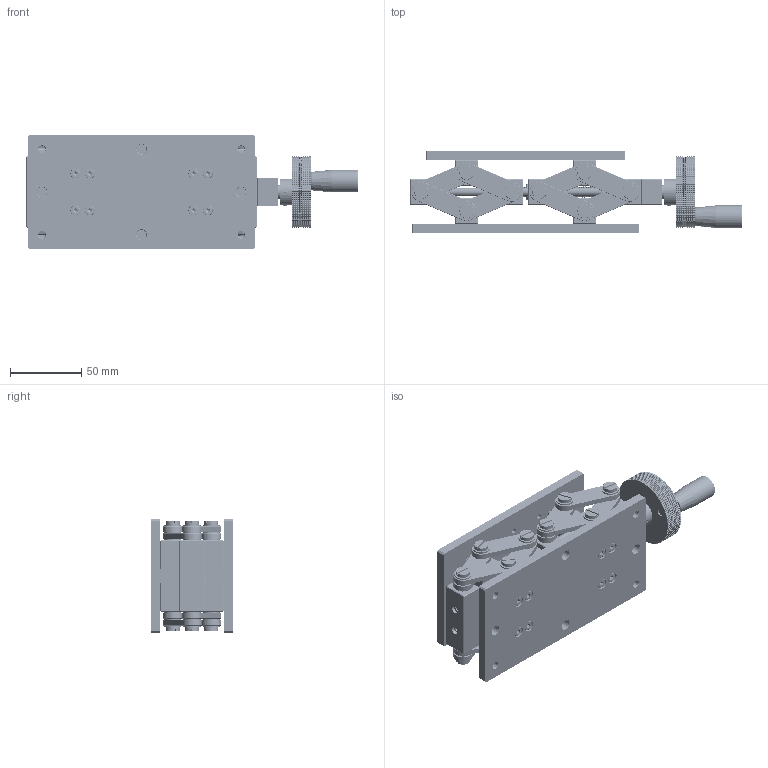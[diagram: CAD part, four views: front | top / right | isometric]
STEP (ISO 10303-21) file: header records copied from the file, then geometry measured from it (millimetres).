
FILE_DESCRIPTION (( 'STEP AP203' ), '1' );
FILE_NAME ('BLJZ0814.STEP', '2024-07-15T12:42:15', ( 'Windows User' ), ( 'P R C' ), 'SwSTEP 2.0', 'SolidWorks 2024', '' );
FILE_SCHEMA (( 'CONFIG_CONTROL_DESIGN' ));
Products named in the file (1): BLJZ0814
Bounding box: 233.5 x 58 x 80 mm (x, y, z)
Volume: 352459.6 mm3; surface area: 183403.9 mm2
Topology: 148 solids, 148 shells, 6579 faces, 17707 edges, 11549 vertices
Faces by surface type: cylinder 2501, cone 2467, plane 1504, bspline 80, torus 27
Full cylindrical faces by diameter (mm): 1.5 x2, 2.5 x29, 3 x6, 3.3 x45, 3.4 x6, 3.5 x23, 4 x20, 4.5 x16, 5 x8, 5.3 x1, 5.5 x8, 6 x87, 6.02 x14, 6.5 x59, 7 x21, 8 x16, 8.5 x3, 9 x1, 10 x29, 11 x4, 11.5 x1, 11.6 x1, 12 x57, 13 x2, 14.5 x1, 15.1 x1, 16 x1, 19 x1
Entity records: 251505 total; most frequent: CARTESIAN_POINT 95507, ORIENTED_EDGE 33404, DIRECTION 30639, EDGE_CURVE 16702, AXIS2_PLACEMENT_3D 12181, VERTEX_POINT 11331, EDGE_LOOP 7787, FACE_OUTER_BOUND 7031
